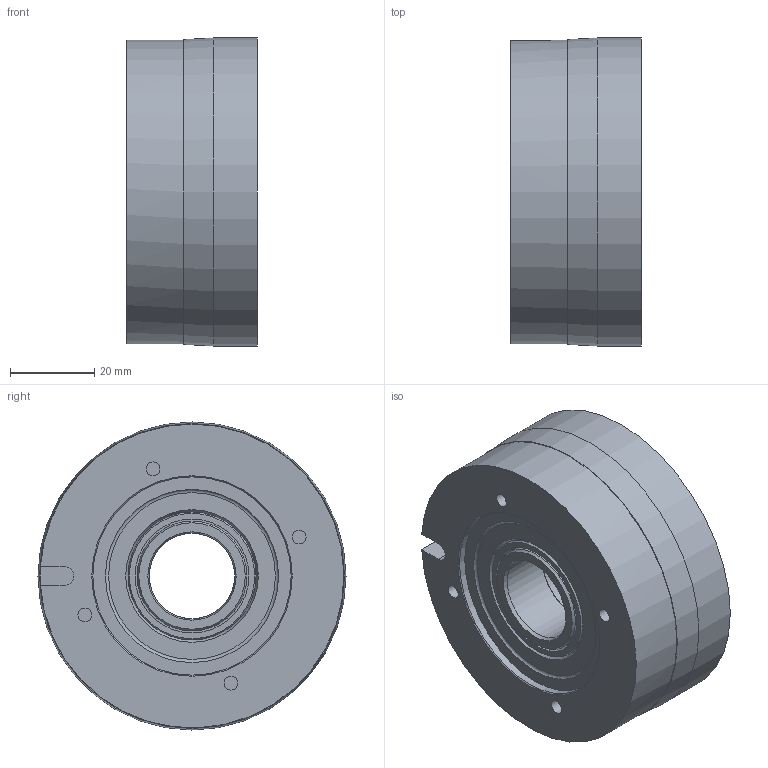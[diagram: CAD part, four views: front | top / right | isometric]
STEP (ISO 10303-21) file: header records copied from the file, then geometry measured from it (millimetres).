
FILE_DESCRIPTION (( 'STEP AP214' ), '1' );
FILE_NAME ('86 61107Pxx_PF-ID 215881.STEP', '2020-02-06T12:57:37', ( '' ), ( '' ), 'SwSTEP 2.0', 'SolidWorks 2018', '' );
FILE_SCHEMA (( 'AUTOMOTIVE_DESIGN' ));
Length unit declared in the file: millimetre
Products named in the file (1): 86 61107Pxx_PF-ID 215881
Bounding box: 31 x 73 x 73 mm (x, y, z)
Volume: 105094 mm3; surface area: 31427.3 mm2
Topology: 1 solids, 1 shells, 68 faces, 122 edges, 76 vertices
Faces by surface type: cylinder 27, plane 25, cone 12, torus 4
Full cylindrical faces by diameter (mm): 3.3 x4, 4.2 x3, 20.2 x1, 20.4 x1, 25 x1, 26 x2, 27 x2, 30.3 x1, 32.5 x1, 33.7 x1, 34.9 x1, 47 x1, 58.2 x1, 64 x1, 69 x1, 69.5 x1, 71 x1, 72 x1, 73 x1
Entity records: 1873 total; most frequent: CARTESIAN_POINT 545, DIRECTION 274, ORIENTED_EDGE 156, EDGE_LOOP 138, AXIS2_PLACEMENT_3D 133, FACE_OUTER_BOUND 98, EDGE_CURVE 78, VERTEX_POINT 74
